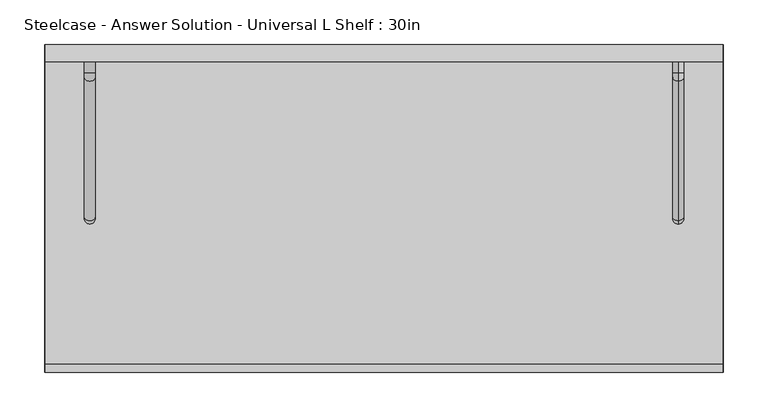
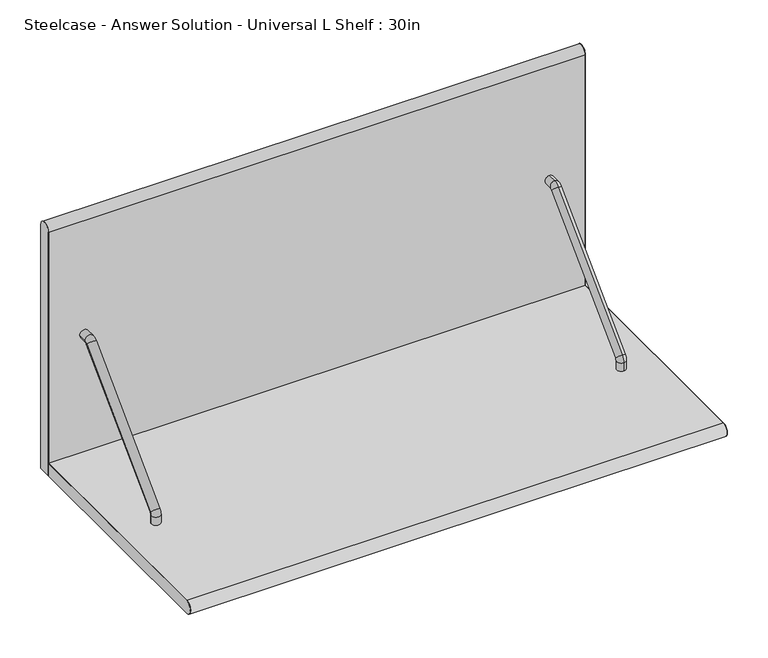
"""IFC4 building model written with IfcOpenShell, lengths in millimetres: furniture geometry, Steelcase - Answer Solution - Universal L Shelf : 30in."""

from ifc_helpers import new_model, si_unit, point, frame, frame_2d, origin, place, context, project, spatial, polyline, circle_curve, ellipse_curve, trimmed, segment, composite_curve, outline, extrude, source, transform, mapped, element, save
from ifc_brep_helpers import plane_surface, cylinder_surface, revolved_surface, advanced_brep


def steelcase_answer_solution_universal_l_shelf_30in_158e136b(model_context):
    return source(origin(), model_context, "Body", "SolidModel", [
        advanced_brep(
        [(711.2, -19.05, 1474.7549677), (711.2, -19.05, 1487.4549677), (711.2, -31.5185531, 1474.7549677), (711.2, -31.5185531, 1487.4549677), (711.2, -40.9494499, 1483.5485623), (711.2, -31.9691938, 1474.5683062), (711.2, -188.7383749, 1317.7991251), (711.2, -197.718631, 1326.7793812), (711.2, -201.6125, 1317.3787499), (711.2, -188.9125, 1317.3787499), (711.2, -188.9125, 1304.925), (711.2, -201.6125, 1304.925)],
        [
            (0, 1, circle_curve(frame((711.2, -19.05, 1481.1049677), z_axis=(0.0, 1.0, 0.0), x_axis=(0.0, 0.0, 1.0)), 6.35)),
            (1, 0, circle_curve(frame((711.2, -19.05, 1481.1049677), z_axis=(0.0, 1.0, 0.0), x_axis=(0.0, 0.0, 1.0)), 6.35)),
            (0, 2),
            (2, 3, circle_curve(frame((711.2, -31.5185531, 1481.1049677), z_axis=(0.0, 1.0, 0.0), x_axis=(0.0, 0.0, 1.0)), 6.35)),
            (3, 1),
            (3, 2, circle_curve(frame((711.2, -31.5185531, 1481.1049677), z_axis=(0.0, 1.0, 0.0), x_axis=(0.0, 0.0, 1.0)), 6.35)),
            (4, 3, circle_curve(frame((711.2, -31.5185531, 1474.1176655), z_axis=(-1.0, 0.0, 0.0), x_axis=(0.0, 0.0, 1.0)), 13.3373022)),
            (2, 5, circle_curve(frame((711.2, -31.5185531, 1474.1176655), z_axis=(1.0, 0.0, 0.0), x_axis=(0.0, 0.0, 1.0)), 0.6373022)),
            (5, 4, circle_curve(frame((711.2, -36.4593219, 1479.0584342), z_axis=(0.0, 0.7071067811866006, 0.7071067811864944), x_axis=(0.0, -0.7071067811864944, 0.7071067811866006)), 6.35)),
            (4, 5, circle_curve(frame((711.2, -36.4593219, 1479.0584342), z_axis=(0.0, 0.7071067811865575, 0.7071067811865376), x_axis=(0.0, -0.7071067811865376, 0.7071067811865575)), 6.35)),
            (5, 6),
            (6, 7, circle_curve(frame((711.2, -193.228503, 1322.2892532), z_axis=(0.0, 0.7071067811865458, 0.7071067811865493), x_axis=(0.0, -0.7071067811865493, 0.7071067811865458)), 6.35)),
            (7, 4),
            (7, 6, circle_curve(frame((711.2, -193.228503, 1322.2892532), z_axis=(0.0, 0.7071067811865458, 0.7071067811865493), x_axis=(0.0, -0.7071067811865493, 0.7071067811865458)), 6.35)),
            (8, 7, circle_curve(frame((711.2, -188.3179998, 1317.3787499), z_axis=(-1.0, 0.0, 0.0), x_axis=(0.0, -0.7071067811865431, 0.7071067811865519)), 13.2945002)),
            (6, 9, circle_curve(frame((711.2, -188.3179998, 1317.3787499), z_axis=(1.0, 0.0, 0.0), x_axis=(0.0, -0.7071067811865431, 0.7071067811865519)), 0.5945002)),
            (9, 8, circle_curve(frame((711.2, -195.2625, 1317.3787499), z_axis=(0.0, 0.0, 1.0), x_axis=(0.0, -1.0, 0.0)), 6.35)),
            (8, 9, circle_curve(frame((711.2, -195.2625, 1317.3787499), z_axis=(0.0, 0.0, 1.0), x_axis=(0.0, -1.0, 0.0)), 6.35)),
            (10, 11, circle_curve(frame((711.2, -195.2625, 1304.925), z_axis=(0.0, 0.0, -1.0), x_axis=(0.0, -1.0, 0.0)), 6.35)),
            (11, 10, circle_curve(frame((711.2, -195.2625, 1304.925), z_axis=(0.0, 0.0, -1.0), x_axis=(0.0, -1.0, 0.0)), 6.35)),
            (9, 10),
            (11, 8),
        ],
        [
            plane_surface(frame((711.2, -19.05, 1481.1049677), z_axis=(0.0, 1.0, 0.0), x_axis=(-1.0, 0.0, 0.0))),
            cylinder_surface(frame((711.2, -19.05, 1481.1049677), z_axis=(0.0, 1.0, 0.0), x_axis=(0.0, 0.0, 1.0)), 6.35),
            revolved_surface(trimmed(ellipse_curve(frame((711.2, -31.5185531, 1481.1049677), z_axis=(0.0, 1.0, 0.0), x_axis=(0.0, 0.0, 1.0)), 6.35, 6.35), [point((711.2, -31.5185531, 1474.7549677))], [point((711.2, -31.5185531, 1487.4549677))], True, "CARTESIAN"), (711.2, -31.5185531, 1474.1176655), (1.0, 0.0, 0.0)),
            revolved_surface(trimmed(ellipse_curve(frame((711.2, -31.5185531, 1481.1049677), z_axis=(0.0, 1.0, 0.0), x_axis=(0.0, 0.0, 1.0)), 6.35, 6.35), [point((711.2, -31.5185531, 1487.4549677))], [point((711.2, -31.5185531, 1474.7549677))], True, "CARTESIAN"), (711.2, -31.5185531, 1474.1176655), (1.0, 0.0, 0.0)),
            cylinder_surface(frame((711.2, -36.4593219, 1479.0584342), z_axis=(0.0, 0.7071067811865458, 0.7071067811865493), x_axis=(0.0, -0.7071067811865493, 0.7071067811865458)), 6.35),
            revolved_surface(trimmed(ellipse_curve(frame((711.2, -193.228503, 1322.2892532), z_axis=(0.0, 0.7071067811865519, 0.7071067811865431), x_axis=(0.0, -0.7071067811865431, 0.7071067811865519)), 6.35, 6.35), [point((711.2, -188.7383749, 1317.7991251))], [point((711.2, -197.718631, 1326.7793812))], True, "CARTESIAN"), (711.2, -188.3179998, 1317.3787499), (1.0, 0.0, 0.0)),
            revolved_surface(trimmed(ellipse_curve(frame((711.2, -193.228503, 1322.2892532), z_axis=(0.0, 0.7071067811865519, 0.7071067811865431), x_axis=(0.0, -0.7071067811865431, 0.7071067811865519)), 6.35, 6.35), [point((711.2, -197.718631, 1326.7793812))], [point((711.2, -188.7383749, 1317.7991251))], True, "CARTESIAN"), (711.2, -188.3179998, 1317.3787499), (1.0, 0.0, 0.0)),
            plane_surface(frame((711.2, -195.2625, 1304.925), z_axis=(0.0, 0.0, -1.0), x_axis=(-1.0, 0.0, 0.0))),
            cylinder_surface(frame((711.2, -195.2625, 1317.3787499), z_axis=(0.0, 0.0, 1.0), x_axis=(0.0, -1.0, 0.0)), 6.35),
        ],
        [
            (0, [[1, 2]]),
            (1, [[-1, 3, 4, 5]]),
            (1, [[-2, -5, 6, -3]]),
            (2, [[7, -4, 8, 9]]),
            (3, [[-8, -6, -7, 10]]),
            (4, [[-9, 11, 12, 13]]),
            (4, [[-10, -13, 14, -11]]),
            (5, [[15, -12, 16, 17]]),
            (6, [[-16, -14, -15, 18]]),
            (7, [[19, 20]]),
            (8, [[-17, 21, -20, 22]]),
            (8, [[-18, -22, -19, -21]]),
        ],
    ),
        advanced_brep(
        [(44.45, -19.05, 1481.1049677), (57.15, -19.05, 1481.1049677), (44.45, -31.5185531, 1481.1049677), (57.15, -31.5185531, 1481.1049677), (57.15, -36.4593219, 1479.0584342), (44.45, -36.4593219, 1479.0584342), (44.45, -193.228503, 1322.2892532), (57.15, -193.228503, 1322.2892532), (57.15, -195.2625, 1317.3787499), (44.45, -195.2625, 1317.3787499), (44.45, -195.2625, 1304.925), (57.15, -195.2625, 1304.925)],
        [
            (0, 1, circle_curve(frame((50.8, -19.05, 1481.1049677), z_axis=(0.0, 1.0, 0.0), x_axis=(1.0, 0.0, 0.0)), 6.35)),
            (1, 0, circle_curve(frame((50.8, -19.05, 1481.1049677), z_axis=(0.0, 1.0, 0.0), x_axis=(1.0, 0.0, 0.0)), 6.35)),
            (0, 2),
            (2, 3, circle_curve(frame((50.8, -31.5185531, 1481.1049677), z_axis=(0.0, 1.0, 0.0), x_axis=(1.0, 0.0, 0.0)), 6.35)),
            (3, 1),
            (3, 2, circle_curve(frame((50.8, -31.5185531, 1481.1049677), z_axis=(0.0, 1.0, 0.0), x_axis=(1.0, 0.0, 0.0)), 6.35)),
            (4, 3, circle_curve(frame((57.15, -31.5185531, 1474.1176655), z_axis=(-1.0, 0.0, 0.0), x_axis=(0.0, 0.0, 1.0)), 6.9873022)),
            (2, 5, circle_curve(frame((44.45, -31.5185531, 1474.1176655), z_axis=(1.0, 0.0, 0.0), x_axis=(0.0, 0.0, 1.0)), 6.9873022)),
            (5, 4, circle_curve(frame((50.8, -36.4593219, 1479.0584342), z_axis=(0.0, 0.7071067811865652, 0.7071067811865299), x_axis=(1.0, 0.0, 0.0)), 6.35)),
            (4, 5, circle_curve(frame((50.8, -36.4593219, 1479.0584342), z_axis=(0.0, 0.7071067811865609, 0.7071067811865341), x_axis=(1.0, 0.0, 0.0)), 6.35)),
            (5, 6),
            (6, 7, circle_curve(frame((50.8, -193.228503, 1322.2892532), z_axis=(0.0, 0.7071067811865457, 0.7071067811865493), x_axis=(1.0, 0.0, 0.0)), 6.35)),
            (7, 4),
            (7, 6, circle_curve(frame((50.8, -193.228503, 1322.2892532), z_axis=(0.0, 0.7071067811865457, 0.7071067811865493), x_axis=(1.0, 0.0, 0.0)), 6.35)),
            (8, 7, circle_curve(frame((57.15, -188.3179998, 1317.3787499), z_axis=(-1.0, 0.0, 0.0), x_axis=(0.0, -0.7071067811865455, 0.7071067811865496)), 6.9445002)),
            (6, 9, circle_curve(frame((44.45, -188.3179998, 1317.3787499), z_axis=(1.0, 0.0, 0.0), x_axis=(0.0, -0.7071067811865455, 0.7071067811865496)), 6.9445002)),
            (9, 8, circle_curve(frame((50.8, -195.2625, 1317.3787499), z_axis=(0.0, 0.0, 1.0), x_axis=(1.0, 0.0, 0.0)), 6.35)),
            (8, 9, circle_curve(frame((50.8, -195.2625, 1317.3787499), z_axis=(0.0, 0.0, 1.0), x_axis=(1.0, 0.0, 0.0)), 6.35)),
            (10, 11, circle_curve(frame((50.8, -195.2625, 1304.925), z_axis=(0.0, 0.0, -1.0), x_axis=(1.0, 0.0, 0.0)), 6.35)),
            (11, 10, circle_curve(frame((50.8, -195.2625, 1304.925), z_axis=(0.0, 0.0, -1.0), x_axis=(1.0, 0.0, 0.0)), 6.35)),
            (9, 10),
            (11, 8),
        ],
        [
            plane_surface(frame((50.8, -19.05, 1481.1049677), z_axis=(0.0, 1.0, 0.0), x_axis=(-1.0, 0.0, 0.0))),
            cylinder_surface(frame((50.8, -19.05, 1481.1049677), z_axis=(0.0, 1.0, 0.0), x_axis=(1.0, 0.0, 0.0)), 6.35),
            revolved_surface(trimmed(ellipse_curve(frame((50.8, -31.5185531, 1481.1049677), z_axis=(0.0, 1.0, 0.0), x_axis=(1.0, 0.0, 0.0)), 6.35, 6.35), [point((44.45, -31.5185531, 1481.1049677))], [point((57.15, -31.5185531, 1481.1049677))], True, "CARTESIAN"), (50.8, -31.5185531, 1474.1176655), (1.0, 0.0, 0.0)),
            revolved_surface(trimmed(ellipse_curve(frame((50.8, -31.5185531, 1481.1049677), z_axis=(0.0, 1.0, 0.0), x_axis=(1.0, 0.0, 0.0)), 6.35, 6.35), [point((57.15, -31.5185531, 1481.1049677))], [point((44.45, -31.5185531, 1481.1049677))], True, "CARTESIAN"), (50.8, -31.5185531, 1474.1176655), (1.0, 0.0, 0.0)),
            cylinder_surface(frame((50.8, -36.4593219, 1479.0584342), z_axis=(0.0, 0.7071067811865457, 0.7071067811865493), x_axis=(1.0, 0.0, 0.0)), 6.35),
            revolved_surface(trimmed(ellipse_curve(frame((50.8, -193.228503, 1322.2892532), z_axis=(0.0, 0.7071067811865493, 0.7071067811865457), x_axis=(1.0, 0.0, 0.0)), 6.35, 6.35), [point((44.45, -193.228503, 1322.2892532))], [point((57.15, -193.228503, 1322.2892532))], True, "CARTESIAN"), (50.8, -188.3179998, 1317.3787499), (1.0, 0.0, 0.0)),
            revolved_surface(trimmed(ellipse_curve(frame((50.8, -193.228503, 1322.2892532), z_axis=(0.0, 0.7071067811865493, 0.7071067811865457), x_axis=(1.0, 0.0, 0.0)), 6.35, 6.35), [point((57.15, -193.228503, 1322.2892532))], [point((44.45, -193.228503, 1322.2892532))], True, "CARTESIAN"), (50.8, -188.3179998, 1317.3787499), (1.0, 0.0, 0.0)),
            plane_surface(frame((50.8, -195.2625, 1304.925), z_axis=(0.0, 0.0, -1.0), x_axis=(-1.0, 0.0, 0.0))),
            cylinder_surface(frame((50.8, -195.2625, 1317.3787499), z_axis=(0.0, 0.0, 1.0), x_axis=(1.0, 0.0, 0.0)), 6.35),
        ],
        [
            (0, [[1, 2]]),
            (1, [[-1, 3, 4, 5]]),
            (1, [[-2, -5, 6, -3]]),
            (2, [[7, -4, 8, 9]]),
            (3, [[-8, -6, -7, 10]]),
            (4, [[-9, 11, 12, 13]]),
            (4, [[-10, -13, 14, -11]]),
            (5, [[15, -12, 16, 17]]),
            (6, [[-16, -14, -15, 18]]),
            (7, [[19, 20]]),
            (8, [[-17, 21, -20, 22]]),
            (8, [[-18, -22, -19, -21]]),
        ],
    ),
        extrude(outline(composite_curve([segment(polyline([(-358.7557809, 1304.925), (-19.05, 1304.925), (-19.05, 1285.875), (-358.7557809, 1285.875)]), True, "CONTINUOUS"), segment(trimmed(circle_curve(frame_2d((-358.7557809, 1295.4)), 9.525), [point((-358.7557809, 1285.875))], [point((-358.7557809, 1304.925))], False, "CARTESIAN"), True, "CONTINUOUS")], self_intersect=False)), frame((761.799975, 0.0, 0.0), z_axis=(1.0, 0.0, 0.0), x_axis=(0.0, 1.0, 0.0)), (0.0, 0.0, 1.0), 0.200025),
        extrude(outline(composite_curve([segment(trimmed(circle_curve(frame_2d((-9.525, 1650.9853521)), 9.525), [point((-19.05, 1650.9853521))], [point((0.0, 1650.9853521))], False, "CARTESIAN"), True, "CONTINUOUS"), segment(polyline([(0.0, 1650.9853521), (0.0, 1285.875), (-19.05, 1285.875), (-19.05, 1650.9853521)]), True, "CONTINUOUS")], self_intersect=False)), frame((761.799975, 0.0, 0.0), z_axis=(1.0, 0.0, 0.0), x_axis=(0.0, 1.0, 0.0)), (0.0, 0.0, 1.0), 0.200025),
        extrude(outline(composite_curve([segment(polyline([(-358.7557809, 1304.925), (-19.05, 1304.925), (-19.05, 1285.875), (-358.7557809, 1285.875)]), True, "CONTINUOUS"), segment(trimmed(circle_curve(frame_2d((-358.7557809, 1295.4)), 9.525), [point((-358.7557809, 1285.875))], [point((-358.7557809, 1304.925))], False, "CARTESIAN"), True, "CONTINUOUS")], self_intersect=False)), frame((0.0, 0.0, 0.0), z_axis=(1.0, 0.0, 0.0), x_axis=(0.0, 1.0, 0.0)), (0.0, 0.0, 1.0), 0.200025),
        extrude(outline(composite_curve([segment(trimmed(circle_curve(frame_2d((-9.525, 1650.9853521)), 9.525), [point((-19.05, 1650.9853521))], [point((0.0, 1650.9853521))], False, "CARTESIAN"), True, "CONTINUOUS"), segment(polyline([(0.0, 1650.9853521), (0.0, 1285.875), (-19.05, 1285.875), (-19.05, 1650.9853521)]), True, "CONTINUOUS")], self_intersect=False)), frame((0.0, 0.0, 0.0), z_axis=(1.0, 0.0, 0.0), x_axis=(0.0, 1.0, 0.0)), (0.0, 0.0, 1.0), 0.200025),
        extrude(outline(composite_curve([segment(polyline([(0.0, 1650.9853521), (0.0, 1285.875), (-358.7557809, 1285.875)]), True, "CONTINUOUS"), segment(trimmed(circle_curve(frame_2d((-358.7557809, 1295.4)), 9.525), [point((-358.7557809, 1285.875))], [point((-358.7557809, 1304.925))], False, "CARTESIAN"), True, "CONTINUOUS"), segment(polyline([(-358.7557809, 1304.925), (-19.05, 1304.925), (-19.05, 1650.9853521)]), True, "CONTINUOUS"), segment(trimmed(circle_curve(frame_2d((-9.525, 1650.9853521)), 9.525), [point((-19.05, 1650.9853521))], [point((0.0, 1650.9853521))], False, "CARTESIAN"), True, "CONTINUOUS")], self_intersect=False)), frame((0.200025, 0.0, 0.0), z_axis=(1.0, 0.0, 0.0), x_axis=(0.0, 1.0, 0.0)), (0.0, 0.0, 1.0), 761.59995),
    ])


if __name__ == "__main__":
    model = new_model("IFC4")
    model_context = context("Model", 3, world=origin())
    ifc_project = project(units=[si_unit("LENGTHUNIT", "METRE", prefix="MILLI")], contexts=[model_context])
    site = spatial("IfcSite", under=ifc_project)
    building = spatial("IfcBuilding", under=site)
    placement = place(None, origin())
    steelcase_answer_solution_universal_l_shelf_30in_shape = steelcase_answer_solution_universal_l_shelf_30in_158e136b(model_context)
    element("IfcFurniture", 1, ObjectType="Steelcase - Answer Solution - Universal L Shelf : 30in", at=placement, inside=building, context=model_context, shape_type="MappedRepresentation", body=[
        mapped(steelcase_answer_solution_universal_l_shelf_30in_shape, transform((0.0, 0.0, 0.0), x_axis=(1.0, 0.0, 0.0), y_axis=(0.0, 1.0, 0.0), z_axis=(0.0, 0.0, 1.0))),
    ])
    save(model, "model.ifc")
